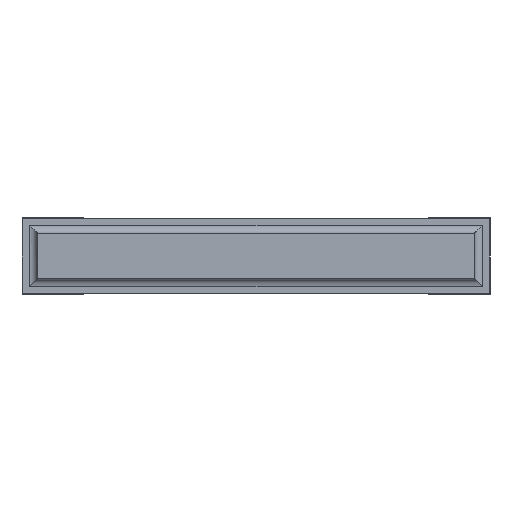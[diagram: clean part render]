
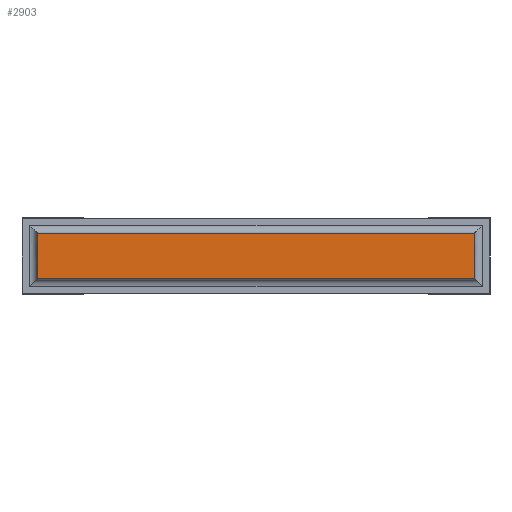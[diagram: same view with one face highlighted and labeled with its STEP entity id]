
A CAD part, front view. The second image highlights one B-rep face of the part: STEP entity #2903.
In plain terms, the highlighted planar face has unit normal (0, -1, 0).
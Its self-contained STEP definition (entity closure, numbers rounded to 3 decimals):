
#67=PLANE('',#3096);
#197=FACE_OUTER_BOUND('',#362,.T.);
#362=EDGE_LOOP('',(#2033,#2034,#2035,#2036));
#522=LINE('',#4134,#896);
#528=LINE('',#4150,#902);
#537=LINE('',#4167,#911);
#538=LINE('',#4169,#912);
#896=VECTOR('',#3317,10.);
#902=VECTOR('',#3331,10.);
#911=VECTOR('',#3348,10.);
#912=VECTOR('',#3351,10.);
#1291=VERTEX_POINT('',#4131);
#1292=VERTEX_POINT('',#4133);
#1297=VERTEX_POINT('',#4146);
#1298=VERTEX_POINT('',#4148);
#1572=EDGE_CURVE('',#1292,#1291,#522,.T.);
#1580=EDGE_CURVE('',#1298,#1297,#528,.T.);
#1589=EDGE_CURVE('',#1292,#1298,#537,.T.);
#1590=EDGE_CURVE('',#1297,#1291,#538,.T.);
#2033=ORIENTED_EDGE('',*,*,#1589,.F.);
#2034=ORIENTED_EDGE('',*,*,#1572,.T.);
#2035=ORIENTED_EDGE('',*,*,#1590,.F.);
#2036=ORIENTED_EDGE('',*,*,#1580,.F.);
#2903=ADVANCED_FACE('',(#197),#67,.T.);
#3096=AXIS2_PLACEMENT_3D('',#4168,#3349,#3350);
#3317=DIRECTION('',(0.,0.,-1.));
#3331=DIRECTION('',(0.,0.,-1.));
#3348=DIRECTION('',(1.,0.,0.));
#3349=DIRECTION('center_axis',(0.,-1.,0.));
#3350=DIRECTION('ref_axis',(0.,0.,-1.));
#3351=DIRECTION('',(-1.,0.,0.));
#4131=CARTESIAN_POINT('',(0.1,0.,0.1));
#4133=CARTESIAN_POINT('',(0.1,0.,0.4));
#4134=CARTESIAN_POINT('',(0.1,0.,0.4));
#4146=CARTESIAN_POINT('',(2.96,0.,0.1));
#4148=CARTESIAN_POINT('',(2.96,0.,0.4));
#4150=CARTESIAN_POINT('',(2.96,0.,0.4));
#4167=CARTESIAN_POINT('',(0.1,0.,0.4));
#4168=CARTESIAN_POINT('Origin',(2.96,0.,0.25));
#4169=CARTESIAN_POINT('',(2.96,0.,0.1));
